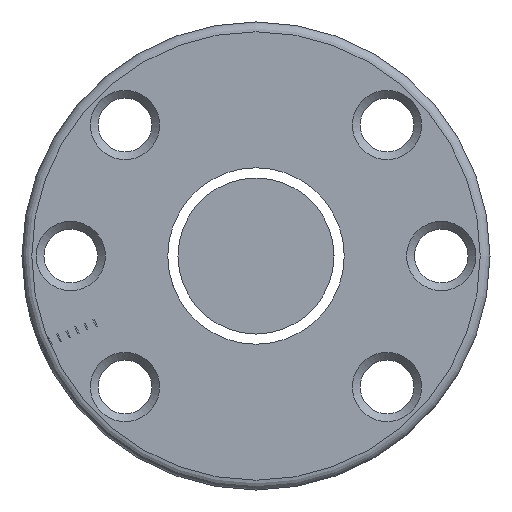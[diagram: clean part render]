
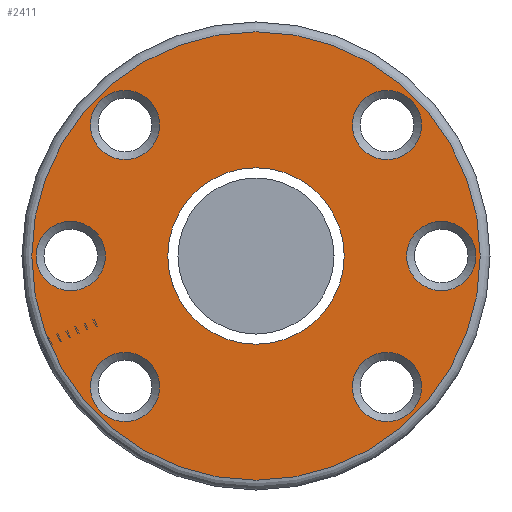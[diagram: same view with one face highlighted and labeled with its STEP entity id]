
A CAD part, left-side view. The second image highlights one B-rep face of the part: STEP entity #2411.
In plain terms, the highlighted planar face has unit normal (-1, 0, 0).
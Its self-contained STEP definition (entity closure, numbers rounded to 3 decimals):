
#7 = CARTESIAN_POINT ( 'NONE',  ( -45., 10.925, 10.925 ) ) ;
#37 = CARTESIAN_POINT ( 'NONE',  ( -45., 24., 0. ) ) ;
#47 = CIRCLE ( 'NONE', #1804, 3.55 ) ;
#57 = EDGE_CURVE ( 'NONE', #2499, #2499, #658, .T. ) ;
#60 = CARTESIAN_POINT ( 'NONE',  ( -45., 15.45, 0. ) ) ;
#64 = DIRECTION ( 'NONE',  ( 0., 0.707, 0.707 ) ) ;
#154 = ORIENTED_EDGE ( 'NONE', *, *, #2586, .T. ) ;
#178 = CIRCLE ( 'NONE', #654, 23. ) ;
#184 = AXIS2_PLACEMENT_3D ( 'NONE', #1089, #1550, #2362 ) ;
#236 = DIRECTION ( 'NONE',  ( 0., -1., 0. ) ) ;
#275 = PLANE ( 'NONE',  #1096 ) ;
#281 = VERTEX_POINT ( 'NONE', #60 ) ;
#310 = AXIS2_PLACEMENT_3D ( 'NONE', #2010, #1628, #2222 ) ;
#360 = CARTESIAN_POINT ( 'NONE',  ( -45., 0., 0. ) ) ;
#392 = CARTESIAN_POINT ( 'NONE',  ( -45., 10.925, -10.925 ) ) ;
#430 = ORIENTED_EDGE ( 'NONE', *, *, #1915, .T. ) ;
#449 = FACE_BOUND ( 'NONE', #1487, .T. ) ;
#480 = CARTESIAN_POINT ( 'NONE',  ( -45., -15.45, 0. ) ) ;
#535 = EDGE_LOOP ( 'NONE', ( #430 ) ) ;
#564 = ORIENTED_EDGE ( 'NONE', *, *, #1005, .T. ) ;
#567 = CARTESIAN_POINT ( 'NONE',  ( -45., 0., 0. ) ) ;
#573 = AXIS2_PLACEMENT_3D ( 'NONE', #1230, #1658, #2506 ) ;
#576 = CIRCLE ( 'NONE', #184, 3.55 ) ;
#583 = EDGE_CURVE ( 'NONE', #818, #818, #1678, .T. ) ;
#621 = AXIS2_PLACEMENT_3D ( 'NONE', #1459, #1472, #1840 ) ;
#654 = AXIS2_PLACEMENT_3D ( 'NONE', #360, #1673, #2740 ) ;
#657 = FACE_OUTER_BOUND ( 'NONE', #2404, .T. ) ;
#658 = CIRCLE ( 'NONE', #573, 3.55 ) ;
#659 = CIRCLE ( 'NONE', #310, 3.55 ) ;
#682 = FACE_BOUND ( 'NONE', #987, .T. ) ;
#699 = ORIENTED_EDGE ( 'NONE', *, *, #583, .T. ) ;
#701 = AXIS2_PLACEMENT_3D ( 'NONE', #1115, #2199, #1519 ) ;
#818 = VERTEX_POINT ( 'NONE', #392 ) ;
#832 = ORIENTED_EDGE ( 'NONE', *, *, #1693, .T. ) ;
#870 = VERTEX_POINT ( 'NONE', #1293 ) ;
#987 = EDGE_LOOP ( 'NONE', ( #2435 ) ) ;
#1005 = EDGE_CURVE ( 'NONE', #870, #870, #659, .T. ) ;
#1075 = FACE_BOUND ( 'NONE', #2270, .T. ) ;
#1078 = VERTEX_POINT ( 'NONE', #480 ) ;
#1089 = CARTESIAN_POINT ( 'NONE',  ( -45., 19., 0. ) ) ;
#1096 = AXIS2_PLACEMENT_3D ( 'NONE', #37, #1917, #236 ) ;
#1115 = CARTESIAN_POINT ( 'NONE',  ( -45., 13.435, -13.435 ) ) ;
#1230 = CARTESIAN_POINT ( 'NONE',  ( -45., 13.435, 13.435 ) ) ;
#1275 = FACE_BOUND ( 'NONE', #1282, .T. ) ;
#1282 = EDGE_LOOP ( 'NONE', ( #699 ) ) ;
#1293 = CARTESIAN_POINT ( 'NONE',  ( -45., -10.925, 10.925 ) ) ;
#1349 = VERTEX_POINT ( 'NONE', #2571 ) ;
#1420 = DIRECTION ( 'NONE',  ( 0., 1., 0. ) ) ;
#1459 = CARTESIAN_POINT ( 'NONE',  ( -45., -19., 0. ) ) ;
#1472 = DIRECTION ( 'NONE',  ( 1., 0., 0. ) ) ;
#1487 = EDGE_LOOP ( 'NONE', ( #2698 ) ) ;
#1494 = EDGE_CURVE ( 'NONE', #281, #281, #576, .T. ) ;
#1498 = AXIS2_PLACEMENT_3D ( 'NONE', #567, #2243, #1420 ) ;
#1506 = FACE_BOUND ( 'NONE', #535, .T. ) ;
#1519 = DIRECTION ( 'NONE',  ( 0., -0.707, 0.707 ) ) ;
#1550 = DIRECTION ( 'NONE',  ( 1., 0., 0. ) ) ;
#1551 = VERTEX_POINT ( 'NONE', #2396 ) ;
#1628 = DIRECTION ( 'NONE',  ( 1., 0., 0. ) ) ;
#1658 = DIRECTION ( 'NONE',  ( 1., 0., 0. ) ) ;
#1673 = DIRECTION ( 'NONE',  ( -1., 0., 0. ) ) ;
#1678 = CIRCLE ( 'NONE', #701, 3.55 ) ;
#1693 = EDGE_CURVE ( 'NONE', #1078, #1078, #2654, .T. ) ;
#1735 = FACE_BOUND ( 'NONE', #1986, .T. ) ;
#1804 = AXIS2_PLACEMENT_3D ( 'NONE', #2386, #1954, #64 ) ;
#1840 = DIRECTION ( 'NONE',  ( 0., 1., 0. ) ) ;
#1915 = EDGE_CURVE ( 'NONE', #1349, #1349, #2518, .T. ) ;
#1917 = DIRECTION ( 'NONE',  ( -1., 0., 0. ) ) ;
#1954 = DIRECTION ( 'NONE',  ( 1., 0., 0. ) ) ;
#1986 = EDGE_LOOP ( 'NONE', ( #154 ) ) ;
#2010 = CARTESIAN_POINT ( 'NONE',  ( -45., -13.435, 13.435 ) ) ;
#2145 = VERTEX_POINT ( 'NONE', #2599 ) ;
#2199 = DIRECTION ( 'NONE',  ( 1., 0., 0. ) ) ;
#2222 = DIRECTION ( 'NONE',  ( 0., 0.707, -0.707 ) ) ;
#2243 = DIRECTION ( 'NONE',  ( 1., 0., 0. ) ) ;
#2262 = EDGE_CURVE ( 'NONE', #2145, #2145, #178, .T. ) ;
#2270 = EDGE_LOOP ( 'NONE', ( #564 ) ) ;
#2362 = DIRECTION ( 'NONE',  ( 0., -1., 0. ) ) ;
#2386 = CARTESIAN_POINT ( 'NONE',  ( -45., -13.435, -13.435 ) ) ;
#2396 = CARTESIAN_POINT ( 'NONE',  ( -45., -10.925, -10.925 ) ) ;
#2404 = EDGE_LOOP ( 'NONE', ( #2626 ) ) ;
#2411 = ADVANCED_FACE ( 'NONE', ( #657, #1275, #1735, #2580, #1075, #449, #682, #1506 ), #275, .T. ) ;
#2435 = ORIENTED_EDGE ( 'NONE', *, *, #1494, .T. ) ;
#2456 = EDGE_LOOP ( 'NONE', ( #832 ) ) ;
#2499 = VERTEX_POINT ( 'NONE', #7 ) ;
#2506 = DIRECTION ( 'NONE',  ( 0., -0.707, -0.707 ) ) ;
#2518 = CIRCLE ( 'NONE', #1498, 9.05 ) ;
#2571 = CARTESIAN_POINT ( 'NONE',  ( -45., 9.05, 0. ) ) ;
#2580 = FACE_BOUND ( 'NONE', #2456, .T. ) ;
#2586 = EDGE_CURVE ( 'NONE', #1551, #1551, #47, .T. ) ;
#2599 = CARTESIAN_POINT ( 'NONE',  ( -45., -23., 0. ) ) ;
#2626 = ORIENTED_EDGE ( 'NONE', *, *, #2262, .T. ) ;
#2654 = CIRCLE ( 'NONE', #621, 3.55 ) ;
#2698 = ORIENTED_EDGE ( 'NONE', *, *, #57, .T. ) ;
#2740 = DIRECTION ( 'NONE',  ( 0., -1., 0. ) ) ;
